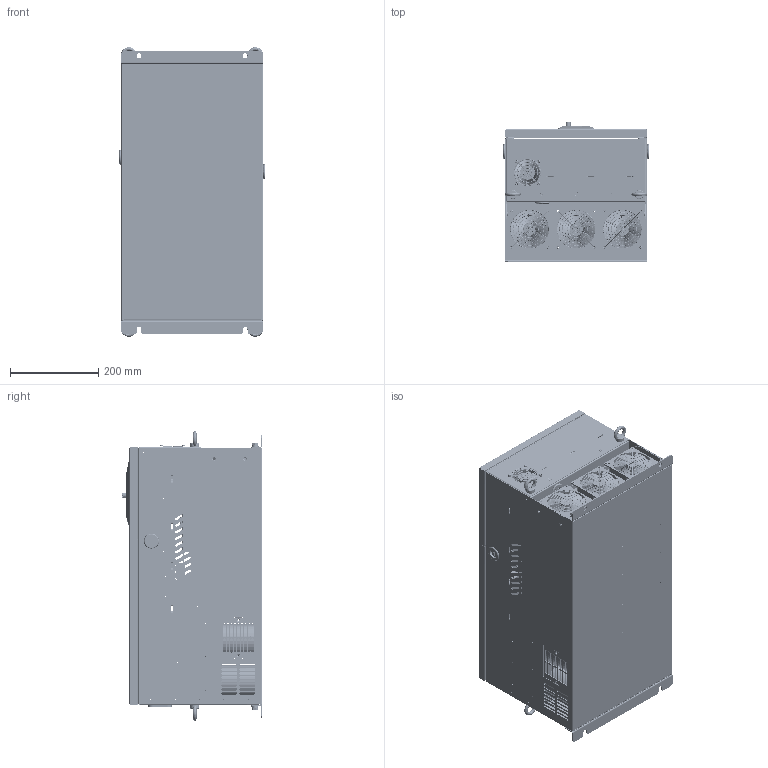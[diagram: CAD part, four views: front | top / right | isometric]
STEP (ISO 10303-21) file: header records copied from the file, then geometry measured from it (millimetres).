
FILE_DESCRIPTION (( 'STEP AP214' ), '1' );
FILE_NAME ('00_KC200_90-132KW ÍâÐÎ³ß´çÍ¼.STEP', '2024-05-29T06:19:21', ( '' ), ( '' ), 'SwSTEP 2.0', 'SolidWorks 2020', '' );
FILE_SCHEMA (( 'AUTOMOTIVE_DESIGN' ));
Length unit declared in the file: millimetre
Products named in the file (1): 00_KC200_90-132KW  俋倛喜渡芞
Bounding box: 329.5 x 316.6 x 655 mm (x, y, z)
Surface area: 3629153.3 mm2 (no closed solid volume)
Topology: 0 solids, 293 shells, 2687 faces, 13571 edges, 10667 vertices
Faces by surface type: cylinder 1201, plane 1042, bspline 354, cone 62, torus 28
Entity records: 184308 total; most frequent: CARTESIAN_POINT 50128, DIRECTION 20789, ORIENTED_EDGE 19130, EDGE_CURVE 13547, VERTEX_POINT 10667, LINE 7323, VECTOR 7323, AXIS2_PLACEMENT_3D 6733
